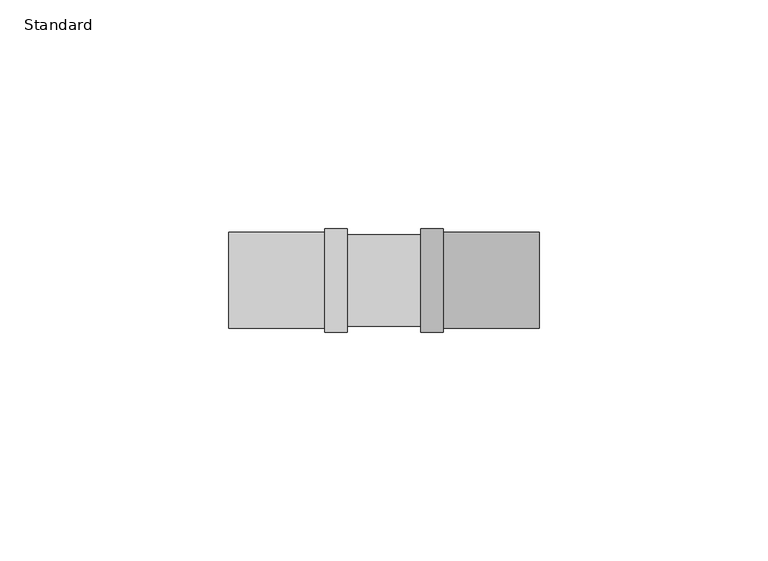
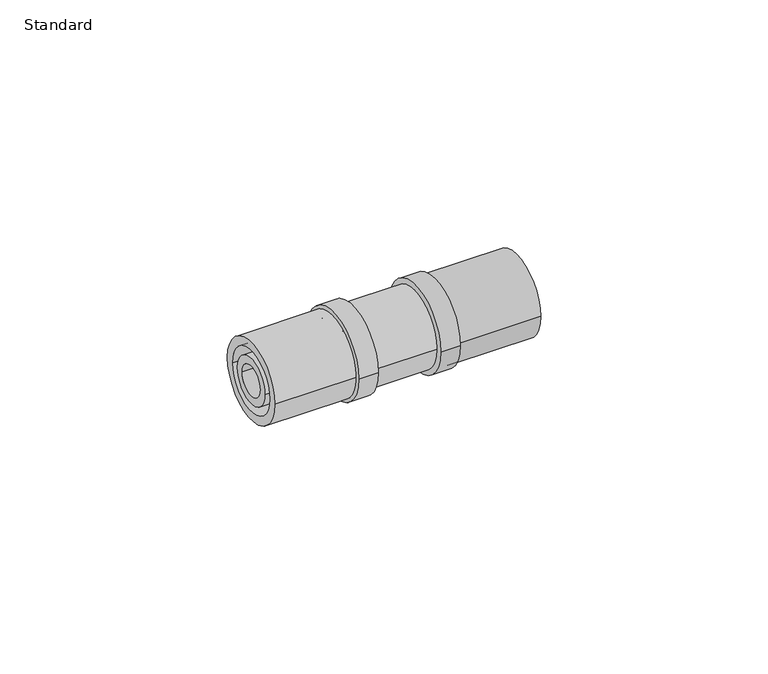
"""IFC4 building model written with IfcOpenShell, lengths in millimetres: pipe fitting geometry, PIF_Tigris_Coupler_M-K_Wavin : Standard."""

from ifc_helpers import new_model, si_unit, point, frame, origin, origin_2d, place, context, project, spatial, circle_curve, trimmed, segment, composite_curve, outline, extrude, source, transform, mapped, element, save


def standard_5f3277fd(model_context):
    return source(origin(), model_context, "Body", "SweptSolid", [
        extrude(outline(composite_curve([segment(trimmed(circle_curve(origin_2d(), 11.35), [point((-11.35, 0.0))], [point((11.35, 0.0))], False, "CARTESIAN"), True, "CONTINUOUS"), segment(trimmed(circle_curve(origin_2d(), 11.35), [point((11.35, 0.0))], [point((-11.35, 0.0))], False, "CARTESIAN"), True, "CONTINUOUS")], self_intersect=False)), frame((8.0, 0.0, 0.0), z_axis=(1.0, 0.0, 0.0), x_axis=(0.0, 1.0, 0.0)), (0.0, 0.0, 1.0), 5.0),
        extrude(outline(composite_curve([segment(trimmed(circle_curve(origin_2d(), 10.5), [point((-10.5, 0.0))], [point((10.5, 0.0))], False, "CARTESIAN"), True, "CONTINUOUS"), segment(trimmed(circle_curve(origin_2d(), 10.5), [point((10.5, 0.0))], [point((-10.5, 0.0))], False, "CARTESIAN"), True, "CONTINUOUS")], self_intersect=False), holes=[composite_curve([segment(trimmed(circle_curve(origin_2d(), 8.2), [point((-8.2, 0.0))], [point((8.2, 0.0))], True, "CARTESIAN"), True, "CONTINUOUS"), segment(trimmed(circle_curve(origin_2d(), 8.2), [point((8.2, 0.0))], [point((-8.2, 0.0))], True, "CARTESIAN"), True, "CONTINUOUS")], self_intersect=False)]), frame((13.0, 0.0, 0.0), z_axis=(1.0, 0.0, 0.0), x_axis=(0.0, 1.0, 0.0)), (0.0, 0.0, 1.0), 21.0),
        extrude(outline(composite_curve([segment(trimmed(circle_curve(origin_2d(), 6.1), [point((-6.1, 0.0))], [point((6.1, 0.0))], False, "CARTESIAN"), True, "CONTINUOUS"), segment(trimmed(circle_curve(origin_2d(), 6.1), [point((6.1, 0.0))], [point((-6.1, 0.0))], False, "CARTESIAN"), True, "CONTINUOUS")], self_intersect=False), holes=[composite_curve([segment(trimmed(circle_curve(origin_2d(), 4.0), [point((-4.0, 0.0))], [point((4.0, 0.0))], True, "CARTESIAN"), True, "CONTINUOUS"), segment(trimmed(circle_curve(origin_2d(), 4.0), [point((4.0, 0.0))], [point((-4.0, 0.0))], True, "CARTESIAN"), True, "CONTINUOUS")], self_intersect=False)]), frame((9.0, 0.0, 0.0), z_axis=(1.0, 0.0, 0.0), x_axis=(0.0, 1.0, 0.0)), (0.0, 0.0, 1.0), 25.0),
        extrude(outline(composite_curve([segment(trimmed(circle_curve(origin_2d(), 11.35), [point((-11.35, 0.0))], [point((11.35, 0.0))], False, "CARTESIAN"), True, "CONTINUOUS"), segment(trimmed(circle_curve(origin_2d(), 11.35), [point((11.35, 0.0))], [point((-11.35, 0.0))], False, "CARTESIAN"), True, "CONTINUOUS")], self_intersect=False)), frame((-13.0, 0.0, 0.0), z_axis=(1.0, 0.0, 0.0), x_axis=(0.0, 1.0, 0.0)), (0.0, 0.0, 1.0), 5.0),
        extrude(outline(composite_curve([segment(trimmed(circle_curve(origin_2d(), 10.5), [point((-10.5, 0.0))], [point((10.5, 0.0))], False, "CARTESIAN"), True, "CONTINUOUS"), segment(trimmed(circle_curve(origin_2d(), 10.5), [point((10.5, 0.0))], [point((-10.5, 0.0))], False, "CARTESIAN"), True, "CONTINUOUS")], self_intersect=False), holes=[composite_curve([segment(trimmed(circle_curve(origin_2d(), 8.2), [point((-8.2, 0.0))], [point((8.2, 0.0))], True, "CARTESIAN"), True, "CONTINUOUS"), segment(trimmed(circle_curve(origin_2d(), 8.2), [point((8.2, 0.0))], [point((-8.2, 0.0))], True, "CARTESIAN"), True, "CONTINUOUS")], self_intersect=False)]), frame((-34.0, 0.0, 0.0), z_axis=(1.0, 0.0, 0.0), x_axis=(0.0, 1.0, 0.0)), (0.0, 0.0, 1.0), 21.0),
        extrude(outline(composite_curve([segment(trimmed(circle_curve(origin_2d(), 6.1), [point((-6.1, 0.0))], [point((6.1, 0.0))], False, "CARTESIAN"), True, "CONTINUOUS"), segment(trimmed(circle_curve(origin_2d(), 6.1), [point((6.1, 0.0))], [point((-6.1, 0.0))], False, "CARTESIAN"), True, "CONTINUOUS")], self_intersect=False), holes=[composite_curve([segment(trimmed(circle_curve(origin_2d(), 4.0), [point((-4.0, 0.0))], [point((4.0, 0.0))], True, "CARTESIAN"), True, "CONTINUOUS"), segment(trimmed(circle_curve(origin_2d(), 4.0), [point((4.0, 0.0))], [point((-4.0, 0.0))], True, "CARTESIAN"), True, "CONTINUOUS")], self_intersect=False)]), frame((-34.0, 0.0, 0.0), z_axis=(1.0, 0.0, 0.0), x_axis=(0.0, 1.0, 0.0)), (0.0, 0.0, 1.0), 25.0),
        extrude(outline(composite_curve([segment(trimmed(circle_curve(origin_2d(), 10.0), [point((-10.0, 0.0))], [point((10.0, 0.0))], False, "CARTESIAN"), True, "CONTINUOUS"), segment(trimmed(circle_curve(origin_2d(), 10.0), [point((10.0, 0.0))], [point((-10.0, 0.0))], False, "CARTESIAN"), True, "CONTINUOUS")], self_intersect=False)), frame((-9.0, 0.0, 0.0), z_axis=(1.0, 0.0, 0.0), x_axis=(0.0, 1.0, 0.0)), (0.0, 0.0, 1.0), 18.0),
    ])


if __name__ == "__main__":
    model = new_model("IFC4")
    model_context = context("Model", 3, world=origin())
    ifc_project = project(units=[si_unit("LENGTHUNIT", "METRE", prefix="MILLI")], contexts=[model_context])
    site = spatial("IfcSite", under=ifc_project)
    building = spatial("IfcBuilding", under=site)
    placement = place(None, origin())
    standard_shape = standard_5f3277fd(model_context)
    element("IfcPipeFitting", 1, ObjectType="PIF_Tigris_Coupler_M-K_Wavin : Standard", at=placement, inside=building, context=model_context, shape_type="MappedRepresentation", body=[
        mapped(standard_shape, transform((0.0, 0.0, 0.0), x_axis=(1.0, 0.0, 0.0), y_axis=(0.0, 1.0, 0.0), z_axis=(0.0, 0.0, 1.0))),
    ])
    save(model, "model.ifc")
